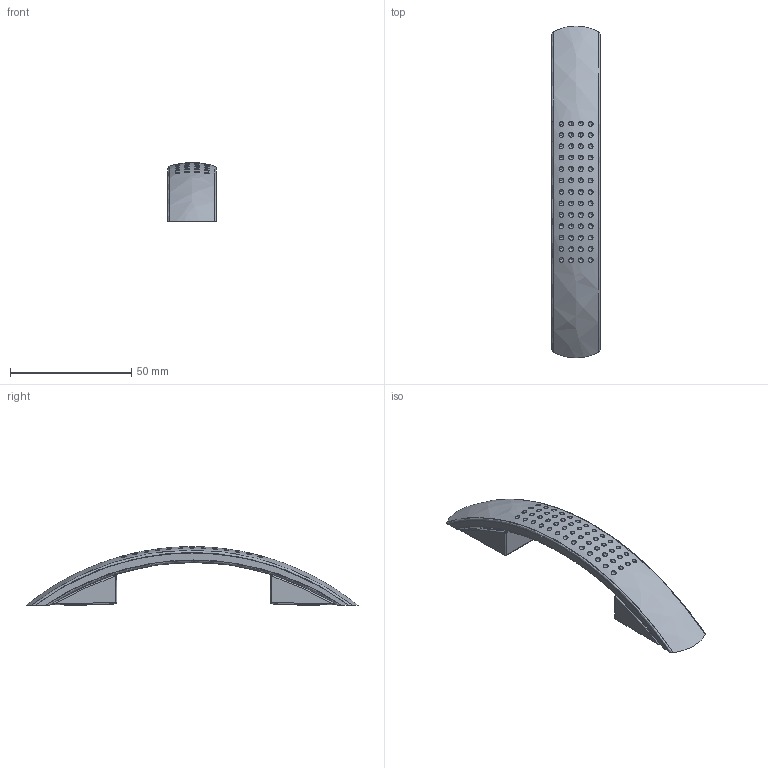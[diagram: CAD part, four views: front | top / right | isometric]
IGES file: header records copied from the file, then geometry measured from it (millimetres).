
Start section: C
Global section: file name: 0097-137.igs; native system: By Siemens PLM Incorporated; preprocessor: XPlus GENERIC/IGES 16.0.42; author: Author; organization: Title; date: 20260104.151606; units: millimetre
Bounding box: 20.04 x 137 x 24.18 mm (x, y, z)
Surface area: 11011.1 mm2 (no closed solid volume)
Topology: 0 solids, 0 shells, 121 faces, 572 edges, 505 vertices
Faces by surface type: bspline 121
